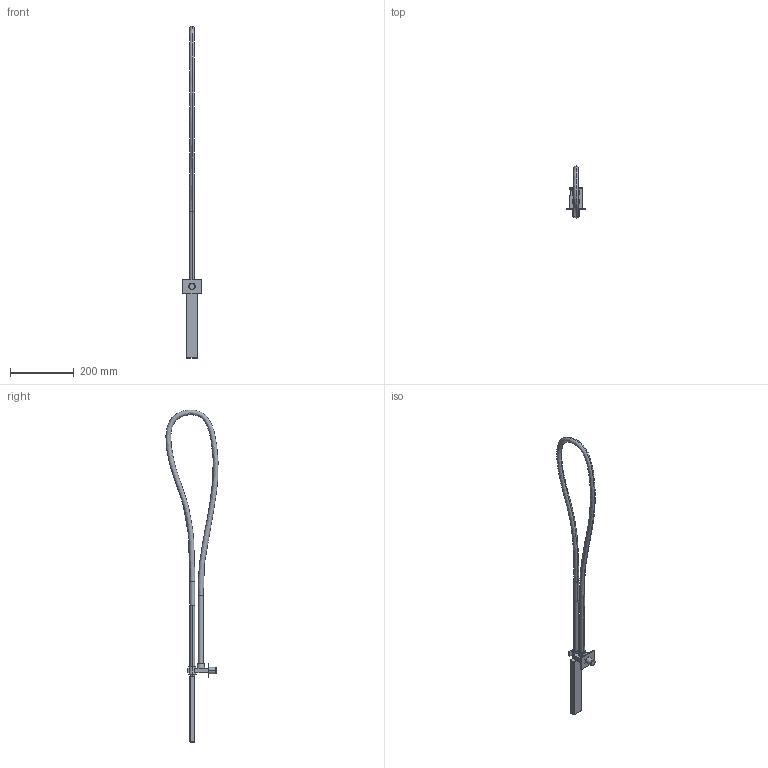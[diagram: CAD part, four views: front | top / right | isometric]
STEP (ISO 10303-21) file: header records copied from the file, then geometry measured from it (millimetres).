
FILE_DESCRIPTION((''),'2;1');
FILE_NAME('53400_SW0003','2024-10-11T11:20:15',('carloff'),(''),'CREO PARAMETRIC BY PTC INC, 2022014','CREO PARAMETRIC BY PTC INC, 2022014','');
FILE_SCHEMA(('CONFIG_CONTROL_DESIGN'));
Length unit declared in the file: millimetre
Products named in the file (1): 53400_SW0003
Bounding box: 60 x 163.82 x 1043.4 mm (x, y, z)
Volume: 472689.2 mm3; surface area: 118263.1 mm2
Topology: 1 solids, 3 shells, 449 faces, 922 edges, 531 vertices
Faces by surface type: torus 194, cone 110, plane 75, cylinder 46, sphere 12, bspline 12
Entity records: 13518 total; most frequent: CARTESIAN_POINT 3542, DIRECTION 2471, ORIENTED_EDGE 1844, AXIS2_PLACEMENT_3D 1135, EDGE_CURVE 922, CIRCLE 698, VERTEX_POINT 531, EDGE_LOOP 507
